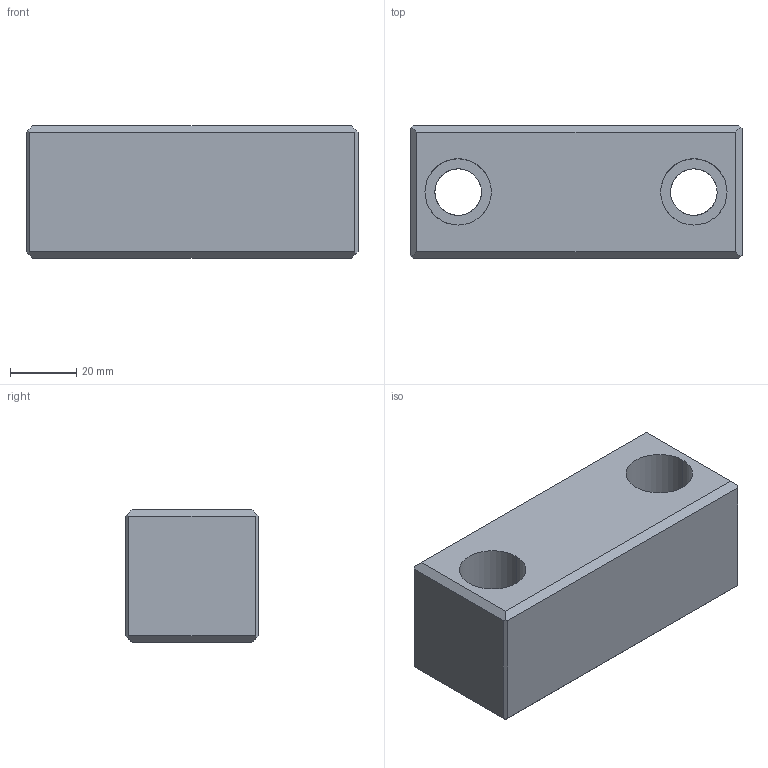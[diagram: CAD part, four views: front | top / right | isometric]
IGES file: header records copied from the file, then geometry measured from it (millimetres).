
Start section: START RECORD GO HERE.
Global section: file name: 759+100+40+40+6.igs; native system: DASSAULT SYSTEMES CATIA V5 R20 - www.3ds.com; preprocessor: CATIA Version 5 Release 20 ; author: Utente; organization: NB04-ASUS; date: 20201028.201155; units: millimetre
Bounding box: 100 x 40 x 40 mm (x, y, z)
Surface area: 22628.1 mm2 (no closed solid volume)
Topology: 0 solids, 0 shells, 28 faces, 144 edges, 144 vertices
Faces by surface type: plane 20, revolution 8
